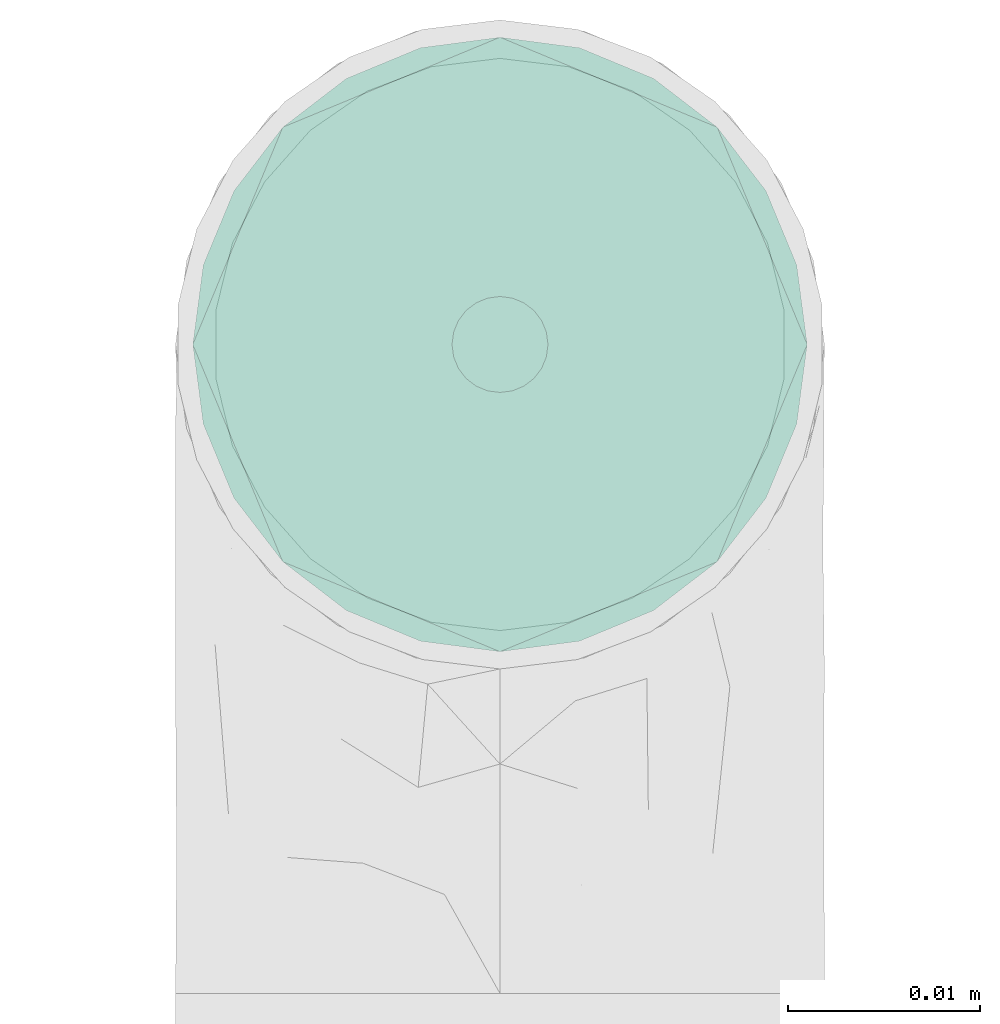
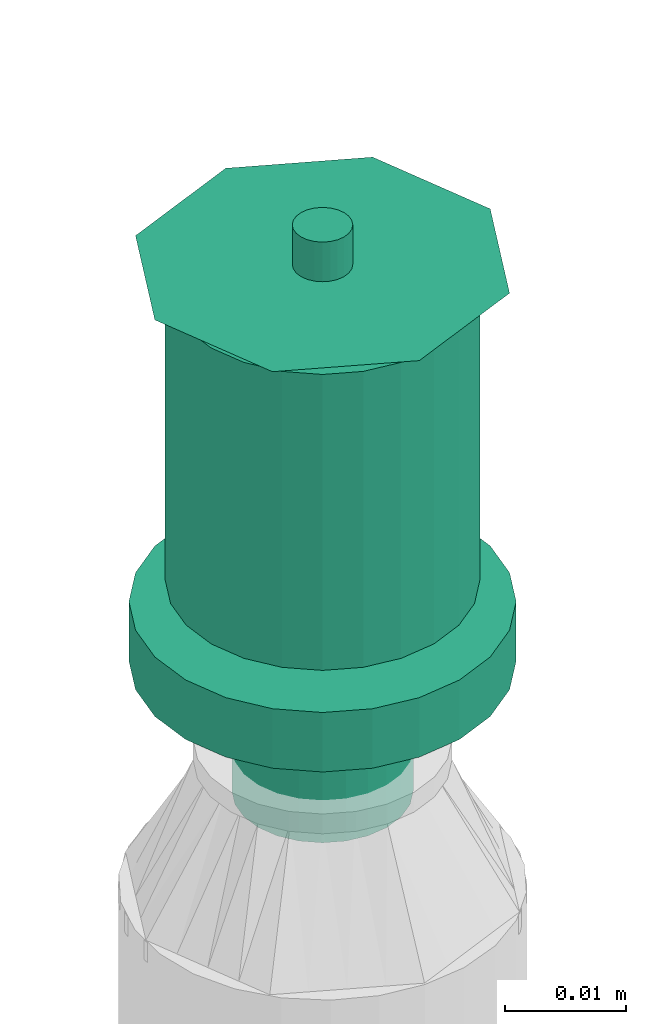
# One storey, part 23 of 31: 1 flow terminal.
"""IFC2X3 building model written with IfcOpenShell, lengths in millimetres."""

from ifc_helpers import new_model, entity, si_unit, converted_unit, derived_unit, direction, frame, origin_with_axes, place, context, subcontext, project, spatial, open_shell, surface_model, source, transform, mapped, type_object, element, save


model = new_model("IFC2X3")

# Units and contexts
model_context = context("Model", 3, precision=0.01, world=frame((0.0, 4.29681676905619e-09, 0.0)), true_north=direction((4.01073788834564e-13, 1.0)))
plan_context = context("Plan", 3, precision=0.01, world=frame((0.0, 4.29681676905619e-09, 0.0)), true_north=direction((4.01073788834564e-13, 1.0)))
body_context = subcontext(model_context, "Body", "Model", "MODEL_VIEW")
ifc_project = project(units=[converted_unit("PLANEANGLEUNIT", "DEGREE", entity("IfcPositiveLengthMeasure", 0.0174532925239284), si_unit("PLANEANGLEUNIT", "RADIAN"), dimensions=[0, 0, 0, 0, 0, 0, 0]), si_unit("AREAUNIT", "SQUARE_METRE"), si_unit("LENGTHUNIT", "METRE", prefix="MILLI"), si_unit("MASSUNIT", "GRAM", prefix="KILO"), si_unit("POWERUNIT", "WATT"), si_unit("PRESSUREUNIT", "PASCAL", prefix="KILO"), si_unit("FORCEUNIT", "NEWTON", prefix="KILO"), si_unit("ELECTRICVOLTAGEUNIT", "VOLT"), si_unit("ELECTRICCURRENTUNIT", "AMPERE"), si_unit("THERMODYNAMICTEMPERATUREUNIT", "DEGREE_CELSIUS"), si_unit("TIMEUNIT", "SECOND"), si_unit("VOLUMEUNIT", "CUBIC_METRE"), derived_unit("LINEARVELOCITYUNIT", [(si_unit("LENGTHUNIT", "METRE"), 1), (si_unit("TIMEUNIT", "SECOND"), -1)]), derived_unit("VOLUMETRICFLOWRATEUNIT", [(si_unit("VOLUMEUNIT", "CUBIC_METRE"), 1), (si_unit("TIMEUNIT", "SECOND"), -1)]), derived_unit("THERMALTRANSMITTANCEUNIT", [(si_unit("POWERUNIT", "WATT"), 1), (si_unit("THERMODYNAMICTEMPERATUREUNIT", "KELVIN"), -1), (si_unit("AREAUNIT", "SQUARE_METRE"), -1)]), derived_unit("SOUNDPRESSUREUNIT", [(si_unit("PRESSUREUNIT", "PASCAL"), 1)])], contexts=[model_context, plan_context])

# Site, building, storey
site_placement = place(None, frame((0.0, -4.29681676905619e-09, 0.0), z_axis=(0.0, 0.0, 1.0), x_axis=(1.0, 0.0, 0.0)))
site = spatial("IfcSite", under=ifc_project, at=site_placement, CompositionType="ELEMENT")
building_placement = place(site_placement, frame((0.0, 4.29681676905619e-09, 0.0), z_axis=(0.0, 0.0, 1.0), x_axis=(1.0, 0.0, 0.0)))
building = spatial("IfcBuilding", under=site, at=building_placement, Name="mc-building", CompositionType="ELEMENT")
storey_placement = place(building_placement, frame((0.0, 0.0, 200300.0), z_axis=(0.0, 0.0, 1.0), x_axis=(1.0, 0.0, 0.0)))
storey = spatial("IfcBuildingStorey", under=building, at=storey_placement, Name="Nivå C", CompositionType="ELEMENT", Elevation=200300.0)

# Flow terminal
fire_suppression_terminal_type = type_object("IfcFireSuppressionTerminalType", Name="68DGR-STD-STÅENDE", PredefinedType="NOTDEFINED")
shared_shape = source(origin_with_axes(), body_context, "Body", "SurfaceModel", [
    surface_model("IfcShellBasedSurfaceModel", [(12.55704, 3.36465, 21.14766), (13.0, 0.0, 21.14766), (12.55704, -3.36465, 21.14766), (-12.55704, -3.36465, 21.14766), (-11.25833, -6.5, 21.14766), (-11.25833, -6.5, 51.0), (3.36465, -12.55704, 51.0), (3.36465, -12.55704, 21.14766), (6.5, -11.25833, 21.14766), (9.19239, -9.19239, 21.14766), (11.25833, -6.5, 21.14766), (9.19239, -9.19239, 51.0), (6.5, -11.25833, 51.0), (11.25833, -6.5, 51.0), (12.55704, -3.36465, 51.0), (13.0, 0.0, 51.0), (9.19239, 9.19239, 51.0), (11.25833, 6.5, 21.14766), (9.19239, 9.19239, 21.14766), (11.25833, 6.5, 51.0), (12.55704, 3.36465, 51.0), (6.5, 11.25833, 51.0), (6.5, 11.25833, 21.14766), (3.36465, 12.55704, 21.14766), (3.36465, 12.55704, 51.0), (-11.25833, 6.5, 51.0), (-11.25833, 6.5, 21.14766), (-12.55704, 3.36465, 21.14766), (0.0, -2.5, 51.0), (-2.5, 0.0, 51.0), (0.0, 2.5, 51.0), (2.5, 0.0, 51.0), (11.31371, 11.31371, 53.0), (-11.31371, 11.31371, 53.0), (-11.31371, -11.31371, 53.0), (11.31371, -11.31371, 53.0), (1.62635, 1.62635, 51.0), (2.16506, 1.25, 51.0), (1.99186, 1.15, 51.0), (-1.76777, 1.76777, 51.0), (-1.25, 2.16506, 51.0), (-1.62635, 1.62635, 51.0), (1.99186, -1.15, 51.0), (2.16506, -1.25, 51.0), (1.62635, -1.62635, 51.0), (-1.62635, -1.62635, 51.0), (-1.25, -2.16506, 51.0), (-1.76777, -1.76777, 51.0), (0.0, 7.3, 0.0), (1.94114, 7.24444, 0.0), (1.88938, 7.05126, 0.0), (5.16188, 5.16188, 0.0), (6.49519, 3.75, 0.0), (6.32199, 3.65, 0.0), (-5.3033, 5.3033, 0.0), (-3.75, 6.49519, 0.0), (-5.16188, 5.16188, 0.0), (6.32199, -3.65, 0.0), (6.49519, -3.75, 0.0), (5.16188, -5.16188, 0.0), (1.88938, -7.05126, 0.0), (1.94114, -7.24444, 0.0), (0.0, -7.3, 0.0), (-5.16188, -5.16188, 0.0), (-3.75, -6.49519, 0.0), (-5.3033, -5.3033, 0.0), (-3.36465, 12.55704, 51.0), (-6.5, 11.25833, 51.0), (0.0, 13.0, 51.0), (-9.19239, 9.19239, 51.0), (0.0, -13.0, 51.0), (-9.19239, -9.19239, 51.0), (-12.55704, -3.36465, 51.0), (-6.5, -11.25833, 51.0), (-3.36465, -12.55704, 51.0), (-7.5, 0.0, -0.1), (-7.24444, 1.94114, 0.1), (-7.24444, 1.94114, -0.1), (-6.49519, 3.75, 0.1), (-6.49519, 3.75, -0.1), (-3.75, 6.49519, -0.1), (-5.3033, 5.3033, -0.1), (-3.75, 6.49519, 0.1), (-5.3033, 5.3033, 0.1), (-1.94114, 7.24444, -0.1), (-1.94114, 7.24444, 0.1), (-7.5, 0.0, 0.1), (0.0, 7.5, 0.1), (0.0, 7.5, -0.1), (1.94114, 7.24444, 0.1), (1.94114, 7.24444, -0.1), (3.75, 6.49519, 0.1), (3.75, 6.49519, -0.1), (6.49519, 3.75, -0.1), (5.3033, 5.3033, -0.1), (6.49519, 3.75, 0.1), (5.3033, 5.3033, 0.1), (7.24444, 1.94114, -0.1), (7.24444, 1.94114, 0.1), (7.5, 0.0, 0.1), (7.5, 0.0, -0.1), (-7.24444, -1.94114, 0.1), (7.24444, -1.94114, 0.1), (5.3033, -5.3033, 0.1), (6.49519, -3.75, 0.1), (-6.49519, -3.75, 0.1), (0.0, -7.5, 0.1), (1.94114, -7.24444, 0.1), (3.75, -6.49519, 0.1), (-3.75, -6.49519, 0.1), (-1.94114, -7.24444, 0.1), (-5.3033, -5.3033, 0.1), (0.0, -7.5, -0.1), (-6.49519, -3.75, -0.1), (1.94114, -7.24444, -0.1), (3.75, -6.49519, -0.1), (5.3033, -5.3033, -0.1), (7.24444, -1.94114, -0.1), (6.49519, -3.75, -0.1), (-3.75, -6.49519, -0.1), (-5.3033, -5.3033, -0.1), (-1.94114, -7.24444, -0.1), (-7.24444, -1.94114, -0.1), (16.0, 0.0, 53.0), (0.0, -16.0, 53.0), (-16.0, 0.0, 53.0), (0.0, 16.0, 53.0), (0.64705, 2.41481, 57.0), (0.0, 2.5, 57.0), (1.25, 2.16506, 57.0), (-2.5, 0.0, 57.0), (1.76777, 1.76777, 57.0), (2.41481, 0.64705, 57.0), (2.16506, 1.25, 57.0), (-0.64705, 2.41481, 57.0), (-1.25, 2.16506, 57.0), (-1.76777, 1.76777, 57.0), (-2.16506, 1.25, 57.0), (-2.41481, 0.64705, 57.0), (2.5, 0.0, 57.0), (1.76777, -1.76777, 57.0), (2.16506, -1.25, 57.0), (2.41481, -0.64705, 57.0), (-2.41481, -0.64705, 57.0), (0.64705, -2.41481, 57.0), (1.25, -2.16506, 57.0), (0.0, -2.5, 57.0), (-1.76777, -1.76777, 57.0), (-2.16506, -1.25, 57.0), (-1.25, -2.16506, 57.0), (-0.64705, -2.41481, 57.0), (1.15, -1.99186, 51.0), (1.76777, -1.76777, 51.0), (1.25, -2.16506, 51.0), (0.59528, -2.22163, 51.0), (0.0, -2.3, 51.0), (0.64705, -2.41481, 51.0), (2.22163, -0.59528, 51.0), (2.3, 0.0, 51.0), (2.41481, -0.64705, 51.0), (-0.64705, -2.41481, 51.0), (-0.59528, -2.22163, 51.0), (-1.15, -1.99186, 51.0), (-2.16506, -1.25, 51.0), (-1.99186, -1.15, 51.0), (-2.22163, -0.59528, 51.0), (-2.3, 0.0, 51.0), (-2.41481, -0.64705, 51.0), (2.22163, 0.59528, 51.0), (2.41481, 0.64705, 51.0), (1.76777, 1.76777, 51.0), (1.15, 1.99186, 51.0), (1.25, 2.16506, 51.0), (0.59528, 2.22163, 51.0), (0.0, 2.3, 51.0), (0.64705, 2.41481, 51.0), (-1.99186, 1.15, 51.0), (-2.16506, 1.25, 51.0), (-2.41481, 0.64705, 51.0), (-2.22163, 0.59528, 51.0), (-0.64705, 2.41481, 51.0), (-0.59528, 2.22163, 51.0), (-1.15, 1.99186, 51.0), (-2.22163, 0.59528, 56.8), (-1.99186, 1.15, 56.8), (-1.15, 1.99186, 56.8), (-1.62635, 1.62635, 56.8), (-0.59528, 2.22163, 56.8), (-2.3, 0.0, 56.8), (0.0, 2.3, 56.8), (0.59528, 2.22163, 56.8), (1.15, 1.99186, 56.8), (1.99186, 1.15, 56.8), (1.62635, 1.62635, 56.8), (2.22163, 0.59528, 56.8), (2.3, 0.0, 56.8), (2.22163, -0.59528, 56.8), (1.99186, -1.15, 56.8), (1.62635, -1.62635, 56.8), (1.15, -1.99186, 56.8), (0.59528, -2.22163, 56.8), (0.0, -2.3, 56.8), (-1.99186, -1.15, 56.8), (-2.22163, -0.59528, 56.8), (-1.62635, -1.62635, 56.8), (-0.59528, -2.22163, 56.8), (-1.15, -1.99186, 56.8), (8.0, -13.85641, 13.0), (4.1411, -15.45481, 13.0), (0.0, -16.0, 13.0), (-4.1411, -15.45481, 13.0), (15.45481, -4.1411, 13.0), (13.85641, -8.0, 13.0), (11.31371, -11.31371, 13.0), (-16.0, 0.0, 13.0), (-8.0, -13.85641, 13.0), (-11.31371, -11.31371, 13.0), (-13.85641, -8.0, 13.0), (-15.45481, -4.1411, 13.0), (15.45481, 4.1411, 13.0), (4.1411, 15.45481, 13.0), (13.85641, 8.0, 13.0), (8.0, 13.85641, 13.0), (11.31371, 11.31371, 13.0), (-15.45481, 4.1411, 13.0), (-11.31371, 11.31371, 13.0), (-8.0, 13.85641, 13.0), (-13.85641, 8.0, 13.0), (-4.1411, 15.45481, 13.0), (0.0, 16.0, 13.0), (16.0, 0.0, 13.0), (7.05126, 1.88938, 12.8), (1.88938, 7.05126, 12.8), (3.65, 6.32199, 12.8), (6.32199, 3.65, 12.8), (5.16188, 5.16188, 12.8), (7.3, 0.0, 12.8), (0.0, 7.3, 12.8), (-3.65, 6.32199, 12.8), (-1.88938, 7.05126, 12.8), (-5.16188, 5.16188, 12.8), (-7.05126, 1.88938, 12.8), (-6.32199, 3.65, 12.8), (7.05126, -1.88938, 12.8), (0.0, -7.3, 12.8), (6.32199, -3.65, 12.8), (3.65, -6.32199, 12.8), (5.16188, -5.16188, 12.8), (1.88938, -7.05126, 12.8), (-7.3, 0.0, 12.8), (-6.32199, -3.65, 12.8), (-7.05126, -1.88938, 12.8), (-1.88938, -7.05126, 12.8), (-5.16188, -5.16188, 12.8), (-3.65, -6.32199, 12.8), (-7.05126, 1.88938, 0.0), (-7.3, 0.0, 0.0), (-6.32199, 3.65, 0.0), (-3.65, 6.32199, 0.0), (-1.88938, 7.05126, 0.0), (3.65, 6.32199, 0.0), (7.05126, 1.88938, 0.0), (7.3, 0.0, 0.0), (3.75, 6.49519, 13.0), (1.94114, 7.24444, 13.0), (7.5, 0.0, 13.0), (5.3033, 5.3033, 13.0), (7.24444, 1.94114, 13.0), (6.49519, 3.75, 13.0), (-5.3033, 5.3033, 13.0), (-7.24444, -1.94114, 13.0), (-1.94114, 7.24444, 13.0), (-3.75, 6.49519, 13.0), (0.0, 7.5, 13.0), (-6.49519, 3.75, 13.0), (-7.24444, 1.94114, 13.0), (7.24444, -1.94114, 13.0), (5.3033, -5.3033, 13.0), (6.49519, -3.75, 13.0), (-6.49519, -3.75, 13.0), (0.0, -7.5, 13.0), (1.94114, -7.24444, 13.0), (3.75, -6.49519, 13.0), (-7.5, 0.0, 13.0), (-3.75, -6.49519, 13.0), (-1.94114, -7.24444, 13.0), (-5.3033, -5.3033, 13.0), (3.65, -6.32199, 0.0), (5.3033, -5.3033, 0.0), (3.75, -6.49519, 0.0), (0.0, -7.5, 0.0), (7.05126, -1.88938, 0.0), (7.24444, -1.94114, 0.0), (7.5, 0.0, 0.0), (-1.94114, -7.24444, 0.0), (-1.88938, -7.05126, 0.0), (-3.65, -6.32199, 0.0), (-6.49519, -3.75, 0.0), (-6.32199, -3.65, 0.0), (-7.05126, -1.88938, 0.0), (-7.24444, -1.94114, 0.0), (-7.5, 0.0, 0.0), (7.24444, 1.94114, 0.0), (5.3033, 5.3033, 0.0), (3.75, 6.49519, 0.0), (0.0, 7.5, 0.0), (-6.49519, 3.75, 0.0), (-7.24444, 1.94114, 0.0), (-1.94114, 7.24444, 0.0), (-12.55704, 3.36465, 51.0), (-13.0, 0.0, 51.0), (0.0, -13.0, 21.14766), (-3.36465, -12.55704, 21.14766), (-6.5, -11.25833, 21.14766), (-9.19239, -9.19239, 21.14766), (-13.0, 0.0, 21.14766), (-9.19239, 9.19239, 21.14766), (-6.5, 11.25833, 21.14766), (-3.36465, 12.55704, 21.14766), (0.0, 13.0, 21.14766), (11.31371, 11.31371, 19.0), (8.0, 13.85641, 19.0), (4.1411, 15.45481, 19.0), (-8.0, 13.85641, 19.0), (16.0, 0.0, 19.0), (15.45481, 4.1411, 19.0), (13.85641, 8.0, 19.0), (-4.1411, 15.45481, 19.0), (0.0, 16.0, 19.0), (-11.31371, 11.31371, 19.0), (-13.85641, 8.0, 19.0), (-15.45481, 4.1411, 19.0), (15.45481, -4.1411, 19.0), (11.31371, -11.31371, 19.0), (13.85641, -8.0, 19.0), (-16.0, 0.0, 19.0), (0.0, -16.0, 19.0), (4.1411, -15.45481, 19.0), (8.0, -13.85641, 19.0), (-13.85641, -8.0, 19.0), (-11.31371, -11.31371, 19.0), (-15.45481, -4.1411, 19.0), (-8.0, -13.85641, 19.0), (-4.1411, -15.45481, 19.0)], [open_shell([[[0, 1, 2]], [[3, 4, 5]], [[6, 7, 8]], [[9, 10, 11]], [[9, 11, 12]], [[10, 13, 11]], [[14, 13, 2]], [[1, 15, 14]], [[16, 17, 18]], [[0, 19, 20]], [[20, 15, 1]], [[21, 16, 18]], [[22, 23, 24]], [[16, 19, 17]], [[25, 26, 27]], [[28, 29, 30]], [[30, 31, 28]], [[31, 30, 32]], [[33, 30, 29]], [[29, 28, 34]], [[35, 28, 31]], [[36, 37, 38]], [[39, 40, 41]], [[42, 43, 44]], [[45, 46, 47]], [[48, 49, 50]], [[51, 52, 53]], [[54, 55, 56]], [[57, 58, 59]], [[60, 61, 62]], [[63, 64, 65]], [[66, 67, 68]], [[67, 24, 68]], [[69, 25, 67]], [[15, 20, 14]], [[70, 6, 12]], [[5, 71, 72]], [[73, 74, 71]], [[72, 71, 74]], [[75, 76, 77]], [[77, 78, 79]], [[80, 81, 82]], [[83, 81, 79]], [[84, 80, 85]], [[76, 78, 77]], [[75, 86, 76]], [[80, 82, 85]], [[82, 81, 83]], [[79, 78, 83]], [[84, 85, 87]], [[87, 88, 84]], [[88, 89, 90]], [[90, 91, 92]], [[93, 94, 95]], [[96, 94, 92]], [[97, 93, 98]], [[91, 96, 92]], [[90, 89, 91]], [[97, 98, 99]], [[98, 93, 95]], [[94, 96, 95]], [[97, 99, 100]], [[87, 89, 88]], [[91, 89, 99]], [[96, 91, 98]], [[91, 99, 98]], [[95, 96, 98]], [[89, 83, 101]], [[85, 82, 87]], [[83, 87, 82]], [[78, 76, 83]], [[89, 87, 83]], [[76, 101, 83]], [[102, 99, 89]], [[103, 104, 102]], [[89, 105, 103]], [[103, 106, 107]], [[108, 103, 107]], [[106, 103, 105]], [[89, 101, 105]], [[101, 76, 86]], [[109, 110, 111]], [[105, 111, 110]], [[106, 105, 110]], [[103, 102, 89]], [[112, 113, 114]], [[115, 114, 116]], [[117, 118, 116]], [[113, 116, 114]], [[116, 113, 117]], [[119, 120, 121]], [[113, 121, 120]], [[121, 113, 112]], [[113, 122, 117]], [[75, 77, 122]], [[100, 117, 122]], [[100, 81, 97]], [[93, 97, 90]], [[90, 92, 94]], [[93, 90, 94]], [[90, 97, 81]], [[79, 81, 77]], [[77, 81, 122]], [[84, 88, 80]], [[81, 80, 88]], [[81, 88, 90]], [[100, 122, 81]], [[100, 102, 117]], [[117, 104, 118]], [[115, 116, 108]], [[103, 116, 118]], [[114, 115, 107]], [[102, 104, 117]], [[100, 99, 102]], [[115, 108, 107]], [[108, 116, 103]], [[118, 104, 103]], [[114, 107, 106]], [[106, 112, 114]], [[112, 110, 121]], [[121, 109, 119]], [[113, 120, 105]], [[111, 120, 119]], [[122, 113, 101]], [[109, 111, 119]], [[121, 110, 109]], [[122, 101, 86]], [[101, 113, 105]], [[120, 111, 105]], [[122, 86, 75]], [[106, 110, 112]], [[31, 123, 35]], [[35, 124, 28]], [[124, 34, 28]], [[29, 34, 125]], [[33, 32, 126]], [[33, 125, 124]], [[124, 32, 33]], [[124, 35, 123]], [[124, 125, 34]], [[123, 32, 124]], [[29, 125, 33]], [[33, 126, 30]], [[126, 32, 30]], [[31, 32, 123]], [[127, 128, 129]], [[129, 130, 131]], [[132, 131, 130]], [[133, 131, 132]], [[130, 129, 128]], [[134, 135, 128]], [[136, 128, 135]], [[137, 138, 136]], [[128, 136, 130]], [[138, 130, 136]], [[139, 132, 130]], [[140, 141, 142]], [[143, 140, 139]], [[144, 140, 143]], [[145, 140, 144]], [[146, 144, 147]], [[139, 130, 143]], [[143, 148, 144]], [[149, 150, 147]], [[144, 148, 147]], [[146, 147, 150]], [[140, 142, 139]], [[151, 152, 153]], [[154, 151, 153]], [[155, 154, 156]], [[153, 156, 154]], [[28, 155, 156]], [[44, 152, 151]], [[157, 158, 159]], [[31, 159, 158]], [[43, 157, 159]], [[152, 44, 43]], [[157, 43, 42]], [[160, 161, 28]], [[161, 155, 28]], [[162, 161, 160]], [[160, 46, 162]], [[162, 46, 45]], [[47, 163, 164]], [[165, 164, 163]], [[45, 47, 164]], [[166, 165, 167]], [[163, 167, 165]], [[29, 166, 167]], [[168, 169, 31]], [[38, 169, 168]], [[169, 38, 37]], [[170, 37, 36]], [[171, 172, 170]], [[173, 172, 171]], [[174, 175, 173]], [[172, 173, 175]], [[30, 175, 174]], [[170, 36, 171]], [[39, 176, 177]], [[41, 176, 39]], [[178, 177, 176]], [[178, 179, 29]], [[176, 179, 178]], [[179, 166, 29]], [[180, 30, 181]], [[182, 180, 181]], [[182, 41, 40]], [[180, 182, 40]], [[181, 30, 174]], [[31, 158, 168]], [[29, 138, 178]], [[178, 137, 177]], [[40, 39, 135]], [[136, 39, 177]], [[180, 40, 134]], [[138, 137, 178]], [[29, 130, 138]], [[40, 135, 134]], [[135, 39, 136]], [[177, 137, 136]], [[180, 134, 128]], [[128, 30, 180]], [[30, 127, 175]], [[175, 129, 172]], [[37, 170, 133]], [[131, 170, 172]], [[169, 37, 132]], [[129, 131, 172]], [[175, 127, 129]], [[169, 132, 139]], [[132, 37, 133]], [[170, 131, 133]], [[169, 139, 31]], [[128, 127, 30]], [[179, 183, 166]], [[176, 184, 179]], [[185, 41, 182]], [[176, 41, 186]], [[187, 182, 181]], [[179, 184, 183]], [[183, 188, 166]], [[187, 185, 182]], [[186, 41, 185]], [[186, 184, 176]], [[189, 187, 181]], [[181, 174, 189]], [[173, 190, 174]], [[171, 191, 173]], [[192, 36, 38]], [[171, 36, 193]], [[194, 38, 168]], [[171, 193, 191]], [[191, 190, 173]], [[195, 194, 168]], [[192, 38, 194]], [[192, 193, 36]], [[158, 195, 168]], [[174, 190, 189]], [[31, 142, 159]], [[159, 141, 43]], [[153, 152, 145]], [[140, 152, 43]], [[156, 153, 144]], [[142, 141, 159]], [[31, 139, 142]], [[153, 145, 144]], [[145, 152, 140]], [[43, 141, 140]], [[156, 144, 146]], [[146, 28, 156]], [[28, 150, 160]], [[160, 149, 46]], [[163, 47, 148]], [[147, 47, 46]], [[167, 163, 143]], [[149, 147, 46]], [[160, 150, 149]], [[167, 143, 130]], [[143, 163, 148]], [[47, 147, 148]], [[167, 130, 29]], [[146, 150, 28]], [[190, 191, 193]], [[190, 193, 195]], [[194, 195, 193]], [[194, 193, 192]], [[190, 195, 186]], [[189, 185, 187]], [[185, 189, 186]], [[186, 183, 184]], [[186, 189, 190]], [[186, 196, 183]], [[186, 195, 196]], [[196, 197, 198]], [[196, 198, 199]], [[199, 200, 201]], [[199, 201, 196]], [[196, 201, 202]], [[188, 202, 203]], [[183, 202, 188]], [[204, 205, 206]], [[205, 204, 202]], [[201, 205, 202]], [[202, 183, 196]], [[157, 196, 158]], [[42, 197, 157]], [[199, 44, 151]], [[42, 44, 198]], [[200, 151, 154]], [[157, 197, 196]], [[196, 195, 158]], [[200, 199, 151]], [[198, 44, 199]], [[198, 197, 42]], [[201, 200, 154]], [[154, 155, 201]], [[161, 205, 155]], [[162, 206, 161]], [[202, 45, 164]], [[162, 45, 204]], [[203, 164, 165]], [[162, 204, 206]], [[206, 205, 161]], [[188, 203, 165]], [[202, 164, 203]], [[202, 204, 45]], [[166, 188, 165]], [[155, 205, 201]], [[207, 208, 209]], [[207, 209, 210]], [[211, 212, 213]], [[213, 207, 214]], [[211, 213, 214]], [[215, 216, 210]], [[217, 210, 216]], [[217, 218, 210]], [[218, 207, 210]], [[218, 214, 207]], [[214, 219, 211]], [[220, 219, 214]], [[221, 219, 220]], [[220, 222, 223]], [[221, 220, 223]], [[214, 224, 220]], [[225, 226, 227]], [[224, 227, 226]], [[228, 229, 226]], [[220, 224, 226]], [[226, 229, 220]], [[219, 230, 211]], [[231, 232, 233]], [[234, 233, 235]], [[231, 236, 232]], [[231, 233, 234]], [[232, 236, 237]], [[237, 238, 239]], [[238, 237, 240]], [[240, 241, 242]], [[240, 237, 236]], [[236, 241, 240]], [[236, 243, 241]], [[244, 243, 245]], [[246, 245, 247]], [[246, 248, 244]], [[246, 244, 245]], [[243, 244, 249]], [[249, 250, 251]], [[250, 249, 252]], [[253, 252, 254]], [[252, 253, 250]], [[249, 244, 252]], [[243, 249, 241]], [[255, 241, 256]], [[257, 242, 255]], [[238, 56, 258]], [[257, 56, 240]], [[239, 258, 259]], [[255, 242, 241]], [[241, 249, 256]], [[239, 238, 258]], [[240, 56, 238]], [[240, 242, 257]], [[237, 239, 259]], [[259, 48, 237]], [[50, 232, 48]], [[260, 233, 50]], [[234, 51, 53]], [[260, 51, 235]], [[231, 53, 261]], [[260, 235, 233]], [[233, 232, 50]], [[236, 231, 261]], [[234, 53, 231]], [[234, 235, 51]], [[262, 236, 261]], [[48, 232, 237]], [[263, 264, 265]], [[266, 263, 267]], [[263, 265, 267]], [[268, 266, 267]], [[264, 269, 270]], [[271, 272, 273]], [[269, 273, 272]], [[274, 275, 269]], [[264, 273, 269]], [[275, 270, 269]], [[276, 265, 264]], [[277, 278, 276]], [[264, 279, 277]], [[277, 280, 281]], [[282, 277, 281]], [[280, 277, 279]], [[264, 270, 279]], [[270, 275, 283]], [[284, 285, 286]], [[279, 286, 285]], [[280, 279, 285]], [[277, 276, 264]], [[287, 288, 289]], [[60, 287, 289]], [[290, 62, 61]], [[289, 61, 60]], [[59, 288, 287]], [[291, 262, 292]], [[293, 292, 262]], [[58, 291, 292]], [[288, 59, 58]], [[291, 58, 57]], [[294, 295, 290]], [[296, 295, 294]], [[294, 64, 296]], [[64, 63, 296]], [[295, 62, 290]], [[65, 297, 298]], [[299, 298, 297]], [[63, 65, 298]], [[256, 299, 300]], [[297, 300, 299]], [[301, 256, 300]], [[261, 302, 293]], [[53, 302, 261]], [[302, 53, 52]], [[303, 52, 51]], [[260, 304, 303]], [[50, 304, 260]], [[304, 50, 49]], [[305, 49, 48]], [[303, 51, 260]], [[54, 257, 306]], [[56, 257, 54]], [[307, 306, 257]], [[307, 255, 301]], [[257, 255, 307]], [[255, 256, 301]], [[308, 305, 259]], [[258, 308, 259]], [[55, 258, 56]], [[308, 258, 55]], [[259, 305, 48]], [[293, 262, 261]], [[301, 275, 307]], [[307, 274, 306]], [[55, 54, 272]], [[269, 54, 306]], [[308, 55, 271]], [[275, 274, 307]], [[301, 283, 275]], [[55, 272, 271]], [[272, 54, 269]], [[306, 274, 269]], [[308, 271, 273]], [[273, 305, 308]], [[305, 264, 49]], [[49, 263, 304]], [[52, 303, 268]], [[266, 303, 304]], [[302, 52, 267]], [[263, 266, 304]], [[49, 264, 263]], [[302, 267, 265]], [[267, 52, 268]], [[303, 266, 268]], [[302, 265, 293]], [[273, 264, 305]], [[293, 276, 292]], [[292, 278, 58]], [[289, 288, 282]], [[277, 288, 58]], [[61, 289, 281]], [[276, 278, 292]], [[293, 265, 276]], [[289, 282, 281]], [[282, 288, 277]], [[58, 278, 277]], [[61, 281, 280]], [[280, 290, 61]], [[290, 285, 294]], [[294, 284, 64]], [[297, 65, 279]], [[286, 65, 64]], [[300, 297, 270]], [[284, 286, 64]], [[294, 285, 284]], [[300, 270, 283]], [[270, 297, 279]], [[65, 286, 279]], [[300, 283, 301]], [[280, 285, 290]], [[291, 243, 262]], [[57, 245, 291]], [[246, 59, 287]], [[57, 59, 247]], [[248, 287, 60]], [[291, 245, 243]], [[243, 236, 262]], [[248, 246, 287]], [[247, 59, 246]], [[247, 245, 57]], [[244, 248, 60]], [[60, 62, 244]], [[295, 252, 62]], [[296, 254, 295]], [[250, 63, 298]], [[296, 63, 253]], [[251, 298, 299]], [[296, 253, 254]], [[254, 252, 295]], [[249, 251, 299]], [[250, 298, 251]], [[250, 253, 63]], [[256, 249, 299]], [[62, 252, 244]], [[16, 21, 24]], [[20, 16, 24]], [[24, 67, 72]], [[19, 16, 20]], [[24, 72, 20]], [[25, 72, 67]], [[309, 310, 25]], [[11, 13, 14]], [[72, 11, 20]], [[74, 12, 11]], [[12, 74, 70]], [[72, 25, 310]], [[72, 74, 11]], [[11, 14, 20]], [[8, 7, 311]], [[8, 311, 312]], [[2, 10, 9]], [[3, 9, 8]], [[3, 26, 9]], [[313, 314, 312]], [[3, 312, 314]], [[4, 3, 314]], [[3, 8, 312]], [[315, 26, 3]], [[2, 9, 26]], [[0, 2, 26]], [[17, 0, 18]], [[23, 22, 18]], [[0, 23, 18]], [[23, 0, 26]], [[316, 317, 26]], [[26, 315, 27]], [[318, 319, 317]], [[23, 26, 317]], [[23, 317, 319]], [[316, 26, 25]], [[318, 317, 67]], [[69, 317, 316]], [[319, 318, 66]], [[310, 309, 315]], [[27, 315, 309]], [[25, 27, 309]], [[25, 69, 316]], [[317, 69, 67]], [[67, 66, 318]], [[66, 68, 319]], [[22, 21, 18]], [[0, 17, 19]], [[1, 0, 20]], [[68, 24, 23]], [[24, 21, 22]], [[319, 68, 23]], [[1, 14, 2]], [[2, 13, 10]], [[6, 311, 7]], [[6, 8, 12]], [[12, 8, 9]], [[6, 70, 311]], [[313, 312, 74]], [[313, 73, 314]], [[71, 4, 314]], [[315, 3, 72]], [[70, 74, 312]], [[74, 73, 313]], [[73, 71, 314]], [[71, 5, 4]], [[3, 5, 72]], [[72, 310, 315]], [[311, 70, 312]], [[320, 321, 322]], [[320, 322, 323]], [[320, 324, 325]], [[326, 320, 325]], [[324, 320, 323]], [[327, 323, 328]], [[323, 322, 328]], [[329, 330, 323]], [[331, 323, 330]], [[323, 331, 324]], [[331, 332, 324]], [[333, 334, 332]], [[335, 333, 331]], [[336, 337, 338]], [[335, 338, 333]], [[338, 335, 336]], [[339, 340, 341]], [[335, 341, 340]], [[342, 343, 340]], [[335, 340, 343]], [[343, 336, 335]], [[332, 331, 333]], [[214, 331, 224]], [[224, 330, 227]], [[226, 225, 323]], [[329, 225, 227]], [[228, 226, 327]], [[331, 330, 224]], [[214, 335, 331]], [[226, 323, 327]], [[323, 225, 329]], [[227, 330, 329]], [[228, 327, 328]], [[328, 229, 228]], [[229, 322, 220]], [[220, 321, 222]], [[221, 223, 326]], [[320, 223, 222]], [[219, 221, 325]], [[321, 320, 222]], [[220, 322, 321]], [[219, 325, 324]], [[325, 221, 326]], [[223, 320, 326]], [[219, 324, 230]], [[328, 322, 229]], [[230, 332, 211]], [[211, 334, 212]], [[207, 213, 338]], [[333, 213, 212]], [[208, 207, 337]], [[332, 334, 211]], [[230, 324, 332]], [[207, 338, 337]], [[338, 213, 333]], [[212, 334, 333]], [[208, 337, 336]], [[336, 209, 208]], [[209, 343, 210]], [[210, 342, 215]], [[217, 216, 339]], [[340, 216, 215]], [[218, 217, 341]], [[342, 340, 215]], [[210, 343, 342]], [[218, 341, 335]], [[341, 217, 339]], [[216, 340, 339]], [[218, 335, 214]], [[336, 343, 209]]])]),
])
flow_terminal_placement = place(storey_placement, frame((608500.0, 403933.19532, 2972.0), z_axis=(0.0, 0.0, 1.0), x_axis=(-1.0, 0.0, 0.0)))
element("IfcFlowTerminal", 1, at=flow_terminal_placement, inside=storey, type_object=fire_suppression_terminal_type, Name="68DGR-STD-STÅENDE", context=body_context, shape_type="MappedRepresentation", body=[
    mapped(shared_shape, transform((0.0, 0.0, 0.0), scale=1.0)),
])

save(model, "model.ifc")
